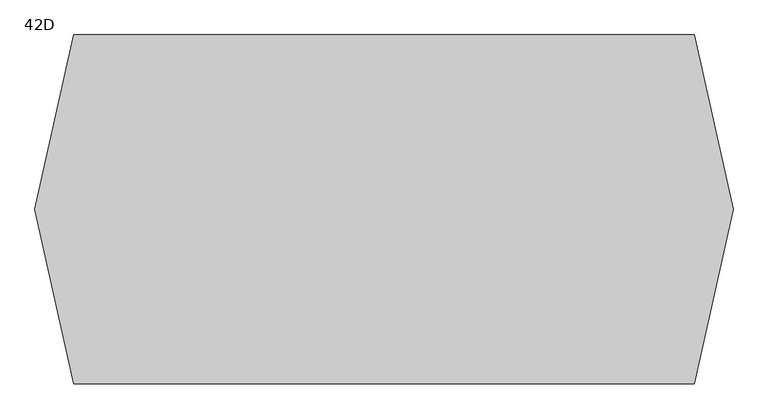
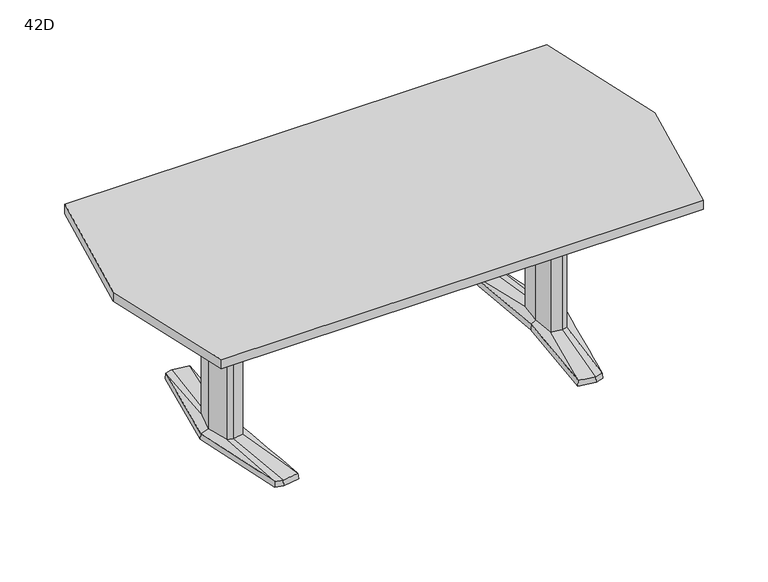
"""IFC4 building model written with IfcOpenShell, lengths in millimetres: furniture geometry, Coalesse_AM_Table_Conference_ETable2_Faceted_84in_AluminiumBase : 42D."""

from ifc_helpers import new_model, si_unit, frame, origin, place, context, project, spatial, polyline, outline, extrude, source, transform, mapped, element, save
from ifc_brep_helpers import plane_surface, spline_surface, advanced_brep


def furniture_42d_598d6e4a(model_context):
    return source(origin(), model_context, "Body", "SolidModel", [
        advanced_brep(
        [(614.8503471, -379.3768856, 25.4), (644.5756636, -371.5332654, 25.4), (668.2327243, -89.293702, 36.5125), (648.9795254, -94.605478, 36.5125), (606.0521001, -87.0529327, 36.5125), (551.7612538, -368.5071562, 25.4), (597.9364207, 0.0, 36.5125), (579.8389754, 0.3970149, 25.4), (606.0521001, 87.0529327, 36.5125), (551.7615002, 368.5172593, 25.4), (648.9795254, 94.605478, 36.5125), (614.8502233, 379.3769183, 25.4), (668.2327243, 89.293702, 36.5125), (644.7535458, 371.4863276, 25.4), (692.1595251, 0.0, 36.5125), (721.4851663, 0.0003516, 25.4), (578.2468742, 0.3968871, 3.175), (550.06875, 369.8367279, 3.175), (614.9213004, 381.0, 3.175), (646.1093245, 372.7704151, 3.175), (723.10625, 0.0, 3.175), (645.9309817, -372.8174744, 3.175), (614.9213004, -381.0, 3.175), (550.06875, -369.8264415, 3.175), (649.5979264, 107.6121478, 3.175), (594.3065451, 97.8843184, 3.175), (585.1810887, 0.0, 3.175), (594.3065451, -97.8843184, 3.175), (649.5979264, -107.6121478, 3.175), (678.6183473, -99.6056872, 3.175), (705.3083085, 0.0, 3.175), (678.6183473, 99.6056872, 3.175), (613.4286812, 346.9152841, 3.175), (557.7811371, 337.3364985, 3.175), (560.1889918, 324.8641942, 3.175), (612.8600644, 333.9306305, 3.175), (648.6725609, 324.4807859, 3.175), (647.5544526, 337.9105158, 3.175), (613.4286812, -346.9152841, 3.175), (647.5544526, -337.9105158, 3.175), (648.6725609, -324.4807859, 3.175), (612.8600644, -333.9306305, 3.175), (560.1889918, -324.8641942, 3.175), (557.7811371, -337.3364985, 3.175), (649.5979264, 107.6121478, 0.0), (678.6183473, 99.6056872, 0.0), (705.3083085, 0.0, 0.0), (678.6183473, -99.6056872, 0.0), (649.5979264, -107.6121478, 0.0), (594.3065451, -97.8843184, 0.0), (585.1810887, 0.0, 0.0), (594.3065451, 97.8843184, 0.0), (613.4286812, 346.9152841, 0.0), (647.5544526, 337.9105158, 0.0), (648.6725609, 324.4807859, 0.0), (612.8600644, 333.9306305, 0.0), (560.1889918, 324.8641942, 0.0), (557.7811371, 337.3364985, 0.0), (613.4286812, -346.9152841, 0.0), (557.7811371, -337.3364985, 0.0), (560.1889918, -324.8641942, 0.0), (612.8600644, -333.9306305, 0.0), (648.6725609, -324.4807859, 0.0), (647.5544526, -337.9105158, 0.0), (668.2327243, 89.293702, 698.5), (648.9795254, 94.605478, 698.5), (606.0521001, 87.0529327, 698.5), (597.9364207, 0.0, 698.5), (606.0521001, -87.0529327, 698.5), (648.9795254, -94.605478, 698.5), (668.2327243, -89.293702, 698.5), (692.1595251, 0.0, 698.5)],
        [
            (0, 1),
            (1, 2),
            (2, 3),
            (3, 0),
            (3, 4),
            (4, 5),
            (5, 0),
            (4, 6),
            (6, 7),
            (7, 5),
            (6, 8),
            (8, 9),
            (9, 7),
            (8, 10),
            (10, 11),
            (11, 9),
            (10, 12),
            (12, 13),
            (13, 11),
            (12, 14),
            (14, 15),
            (15, 13),
            (1, 15),
            (14, 2),
            (16, 17),
            (17, 18),
            (18, 19),
            (19, 20),
            (20, 21),
            (21, 22),
            (22, 23),
            (23, 16),
            (24, 25),
            (25, 26),
            (26, 27),
            (27, 28),
            (28, 29),
            (29, 30),
            (30, 31),
            (31, 24),
            (32, 33),
            (33, 34),
            (34, 35),
            (35, 36),
            (36, 37),
            (37, 32),
            (38, 39),
            (39, 40),
            (40, 41),
            (41, 42),
            (42, 43),
            (43, 38),
            (16, 7),
            (9, 17),
            (11, 18),
            (13, 19),
            (15, 20),
            (1, 21),
            (0, 22),
            (5, 23),
            (44, 45),
            (45, 46),
            (46, 47),
            (47, 48),
            (48, 49),
            (49, 50),
            (50, 51),
            (51, 44),
            (52, 53),
            (53, 54),
            (54, 55),
            (55, 56),
            (56, 57),
            (57, 52),
            (58, 59),
            (59, 60),
            (60, 61),
            (61, 62),
            (62, 63),
            (63, 58),
            (44, 24),
            (31, 45),
            (30, 46),
            (29, 47),
            (28, 48),
            (27, 49),
            (26, 50),
            (25, 51),
            (52, 32),
            (37, 53),
            (36, 54),
            (35, 55),
            (34, 56),
            (33, 57),
            (58, 38),
            (43, 59),
            (42, 60),
            (41, 61),
            (40, 62),
            (39, 63),
            (64, 65),
            (65, 66),
            (66, 67),
            (67, 68),
            (68, 69),
            (69, 70),
            (70, 71),
            (71, 64),
            (71, 14),
            (12, 64),
            (70, 2),
            (69, 3),
            (68, 4),
            (67, 6),
            (66, 8),
            (65, 10),
        ],
        [
            spline_surface(1, 1, [[(644.5756636, -371.5332654, 25.4), (614.8503471, -379.3768856, 25.4)], [(668.2327243, -89.293702, 36.5125), (648.9795254, -94.605478, 36.5125)]], [2, 2], [2, 2], [0.0, 1.0], [0.0, 1.0]),
            spline_surface(1, 1, [[(614.8503471, -379.3768856, 25.4), (551.7612538, -368.5071562, 25.4)], [(648.9795254, -94.605478, 36.5125), (606.0521001, -87.0529327, 36.5125)]], [2, 2], [2, 2], [0.0, 1.0], [0.0, 1.0]),
            spline_surface(1, 1, [[(551.7612538, -368.5071562, 25.4), (579.8389754, 0.3970149, 25.4)], [(606.0521001, -87.0529327, 36.5125), (597.9364207, 0.0, 36.5125)]], [2, 2], [2, 2], [0.0, 1.0], [0.0, 1.0]),
            spline_surface(1, 1, [[(579.8389754, 0.3970149, 25.4), (551.7615002, 368.5172593, 25.4)], [(597.9364207, 0.0, 36.5125), (606.0521001, 87.0529327, 36.5125)]], [2, 2], [2, 2], [0.0, 1.0], [0.0, 1.0]),
            spline_surface(1, 1, [[(551.7615002, 368.5172593, 25.4), (614.8502233, 379.3769183, 25.4)], [(606.0521001, 87.0529327, 36.5125), (648.9795254, 94.605478, 36.5125)]], [2, 2], [2, 2], [0.0, 1.0], [0.0, 1.0]),
            spline_surface(1, 1, [[(614.8502233, 379.3769183, 25.4), (644.7535458, 371.4863276, 25.4)], [(648.9795254, 94.605478, 36.5125), (668.2327243, 89.293702, 36.5125)]], [2, 2], [2, 2], [0.0, 1.0], [0.0, 1.0]),
            spline_surface(1, 1, [[(644.7535458, 371.4863276, 25.4), (721.4851663, 0.0003516, 25.4)], [(668.2327243, 89.293702, 36.5125), (692.1595251, 0.0, 36.5125)]], [2, 2], [2, 2], [0.0, 1.0], [0.0, 1.0]),
            spline_surface(1, 1, [[(721.4851663, 0.0003516, 25.4), (644.5756636, -371.5332654, 25.4)], [(692.1595251, 0.0, 36.5125), (668.2327243, -89.293702, 36.5125)]], [2, 2], [2, 2], [0.0, 1.0], [0.0, 1.0]),
            plane_surface(frame((615.4216914, 0.0450143, 3.175), z_axis=(0.0, 0.0, -1.0), x_axis=(-0.9669048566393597, -0.2551372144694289, 0.0))),
            plane_surface(frame((564.1578121, 185.1168075, 3.175), z_axis=(-0.9945699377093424, -0.07585840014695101, 0.0712470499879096), x_axis=(-0.07605167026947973, 0.9971038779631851, 0.0))),
            plane_surface(frame((582.4950252, 375.418364, 3.175), z_axis=(-0.1692071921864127, 0.9830019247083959, 0.07124704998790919), x_axis=(0.985506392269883, 0.16963829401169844, 0.0))),
            plane_surface(frame((630.5153124, 376.8852076, 3.175), z_axis=(0.2544888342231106, 0.9644476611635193, 0.07124704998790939), x_axis=(0.9669048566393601, -0.25513721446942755, 0.0))),
            plane_surface(frame((684.6077872, 186.3852076, 3.175), z_axis=(0.9768383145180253, 0.2017690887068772, 0.07124704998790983), x_axis=(0.20228315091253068, -0.9793270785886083, 0.0))),
            plane_surface(frame((684.5186158, -186.4087372, 3.175), z_axis=(0.9767507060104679, -0.20219276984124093, 0.07124704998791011), x_axis=(-0.2027079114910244, -0.9792392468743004, 0.0))),
            plane_surface(frame((630.426141, -376.9087372, 3.175), z_axis=(0.2544888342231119, -0.9644476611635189, 0.0712470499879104), x_axis=(-0.9669048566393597, -0.2551372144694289, 0.0))),
            plane_surface(frame((582.4950252, -375.4132207, 3.175), z_axis=(-0.16935861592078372, -0.982975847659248, 0.07124704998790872), x_axis=(-0.9854802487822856, 0.16979010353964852, 0.0))),
            plane_surface(frame((564.1578121, -184.7147772, 3.175), z_axis=(-0.9945820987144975, 0.07569878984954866, 0.07124704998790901), x_axis=(0.07589165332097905, 0.9971160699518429, 0.0))),
            plane_surface(frame((652.3571479, 106.8509046, 0.0), z_axis=(0.0, 0.0, -1.0000000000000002), x_axis=(-0.9639855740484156, 0.26595453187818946, 0.0))),
            plane_surface(frame((649.5979264, 107.6121478, 3.175), z_axis=(0.26595453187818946, 0.9639855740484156, 0.0), x_axis=(0.0, 0.0, -1.0))),
            plane_surface(frame((678.6183473, 99.6056872, 3.175), z_axis=(0.9659241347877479, 0.2588253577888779, 0.0), x_axis=(0.0, 0.0, -1.0))),
            plane_surface(frame((705.3083085, 0.0, 3.175), z_axis=(0.9659241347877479, -0.2588253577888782, 0.0), x_axis=(0.0, 0.0, -1.0))),
            plane_surface(frame((678.6183473, -99.6056872, 3.175), z_axis=(0.26595453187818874, -0.9639855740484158, 0.0), x_axis=(0.0, 0.0, -1.0))),
            plane_surface(frame((649.5979264, -107.6121478, 3.175), z_axis=(-0.17327617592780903, -0.9848732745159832, 0.0), x_axis=(0.0, 0.0, -1.0))),
            plane_surface(frame((594.3065451, -97.8843184, 3.175), z_axis=(-0.9956824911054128, -0.0928244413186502, 0.0), x_axis=(0.0, 0.0, -1.0))),
            plane_surface(frame((585.1810887, 0.0, 3.175), z_axis=(-0.9956824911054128, 0.09282444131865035, 0.0), x_axis=(0.0, 0.0, -1.0))),
            plane_surface(frame((594.3065451, 97.8843184, 3.175), z_axis=(-0.17327617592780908, 0.984873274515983, 0.0), x_axis=(0.0, 0.0, -1.0))),
            plane_surface(frame((613.4286812, 346.9152841, 3.175), z_axis=(0.25513721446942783, 0.9669048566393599, 0.0), x_axis=(0.0, 0.0, -1.0))),
            plane_surface(frame((647.5544526, 337.9105158, 3.175), z_axis=(0.9965521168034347, 0.0829691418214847, 0.0), x_axis=(0.0, 0.0, -1.0))),
            plane_surface(frame((648.6725609, 324.4807859, 3.175), z_axis=(-0.25513721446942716, -0.9669048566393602, 0.0), x_axis=(0.0, 0.0, -1.0))),
            plane_surface(frame((612.8600644, 333.9306305, 3.175), z_axis=(0.16963829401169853, -0.985506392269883, 0.0), x_axis=(0.0, 0.0, -1.0))),
            plane_surface(frame((560.1889918, 324.8641942, 3.175), z_axis=(-0.9818699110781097, -0.18955600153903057, 0.0), x_axis=(0.0, 0.0, -1.0))),
            plane_surface(frame((557.7811371, 337.3364985, 3.175), z_axis=(-0.16963829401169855, 0.9855063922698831, 0.0), x_axis=(0.0, 0.0, -1.0))),
            plane_surface(frame((613.4286812, -346.9152841, 3.175), z_axis=(-0.1696382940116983, -0.9855063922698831, 0.0), x_axis=(0.0, 0.0, -1.0))),
            plane_surface(frame((557.7811371, -337.3364985, 3.175), z_axis=(-0.9818699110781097, 0.18955600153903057, 0.0), x_axis=(0.0, 0.0, -1.0))),
            plane_surface(frame((560.1889918, -324.8641942, 3.175), z_axis=(0.16963829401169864, 0.985506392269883, 0.0), x_axis=(0.0, 0.0, -1.0))),
            plane_surface(frame((612.8600644, -333.9306305, 3.175), z_axis=(-0.2551372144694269, 0.9669048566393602, 0.0), x_axis=(0.0, 0.0, -1.0))),
            plane_surface(frame((648.6725609, -324.4807859, 3.175), z_axis=(0.9965521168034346, -0.0829691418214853, 0.0), x_axis=(0.0, 0.0, -1.0))),
            plane_surface(frame((647.5544526, -337.9105158, 3.175), z_axis=(0.2551372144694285, -0.9669048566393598, 0.0), x_axis=(0.0, 0.0, -1.0))),
            plane_surface(frame((692.1595251, 0.0, 698.5), z_axis=(0.0, 0.0, 1.0), x_axis=(0.25882535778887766, -0.965924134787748, 0.0))),
            plane_surface(frame((668.2327243, 89.293702, 698.5), z_axis=(0.965924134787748, 0.25882535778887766, 0.0), x_axis=(0.0, 0.0, -1.0))),
            plane_surface(frame((692.1595251, 0.0, 698.5), z_axis=(0.965924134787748, -0.2588253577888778, 0.0), x_axis=(0.0, 0.0, -1.0))),
            plane_surface(frame((668.2327243, -89.293702, 698.5), z_axis=(0.2659545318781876, -0.963985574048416, 0.0), x_axis=(0.0, 0.0, -1.0))),
            plane_surface(frame((648.9795254, -94.605478, 698.5), z_axis=(-0.1732761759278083, -0.9848732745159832, 0.0), x_axis=(0.0, 0.0, -1.0))),
            plane_surface(frame((606.0521001, -87.0529327, 698.5), z_axis=(-0.9956824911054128, -0.0928244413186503, 0.0), x_axis=(0.0, 0.0, -1.0))),
            plane_surface(frame((597.9364207, 0.0, 698.5), z_axis=(-0.9956824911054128, 0.09282444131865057, 0.0), x_axis=(0.0, 0.0, -1.0))),
            plane_surface(frame((606.0521001, 87.0529327, 698.5), z_axis=(-0.17327617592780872, 0.9848732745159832, 0.0), x_axis=(0.0, 0.0, -1.0))),
            plane_surface(frame((648.9795254, 94.605478, 698.5), z_axis=(0.26595453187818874, 0.9639855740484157, 0.0), x_axis=(0.0, 0.0, -1.0))),
        ],
        [
            (0, [[1, 2, 3, 4]]),
            (1, [[5, 6, 7, -4]]),
            (2, [[8, 9, 10, -6]]),
            (3, [[11, 12, 13, -9]]),
            (4, [[14, 15, 16, -12]]),
            (5, [[17, 18, 19, -15]]),
            (6, [[20, 21, 22, -18]]),
            (7, [[23, -21, 24, -2]]),
            (8, [[25, 26, 27, 28, 29, 30, 31, 32], [33, 34, 35, 36, 37, 38, 39, 40], [41, 42, 43, 44, 45, 46], [47, 48, 49, 50, 51, 52]]),
            (9, [[53, -13, 54, -25]]),
            (10, [[-54, -16, 55, -26]]),
            (11, [[-55, -19, 56, -27]]),
            (12, [[-56, -22, 57, -28]]),
            (13, [[-57, -23, 58, -29]]),
            (14, [[-58, -1, 59, -30]]),
            (15, [[-59, -7, 60, -31]]),
            (16, [[-60, -10, -53, -32]]),
            (17, [[61, 62, 63, 64, 65, 66, 67, 68]]),
            (17, [[69, 70, 71, 72, 73, 74]]),
            (17, [[75, 76, 77, 78, 79, 80]]),
            (18, [[81, -40, 82, -61]]),
            (19, [[-82, -39, 83, -62]]),
            (20, [[-83, -38, 84, -63]]),
            (21, [[-84, -37, 85, -64]]),
            (22, [[-85, -36, 86, -65]]),
            (23, [[-86, -35, 87, -66]]),
            (24, [[-87, -34, 88, -67]]),
            (25, [[-88, -33, -81, -68]]),
            (26, [[89, -46, 90, -69]]),
            (27, [[-90, -45, 91, -70]]),
            (28, [[-91, -44, 92, -71]]),
            (29, [[-92, -43, 93, -72]]),
            (30, [[-93, -42, 94, -73]]),
            (31, [[-94, -41, -89, -74]]),
            (32, [[95, -52, 96, -75]]),
            (33, [[-96, -51, 97, -76]]),
            (34, [[-97, -50, 98, -77]]),
            (35, [[-98, -49, 99, -78]]),
            (36, [[-99, -48, 100, -79]]),
            (37, [[-100, -47, -95, -80]]),
            (38, [[101, 102, 103, 104, 105, 106, 107, 108]]),
            (39, [[109, -20, 110, -108]]),
            (40, [[111, -24, -109, -107]]),
            (41, [[112, -3, -111, -106]]),
            (42, [[113, -5, -112, -105]]),
            (43, [[114, -8, -113, -104]]),
            (44, [[115, -11, -114, -103]]),
            (45, [[116, -14, -115, -102]]),
            (46, [[-110, -17, -116, -101]]),
        ],
    ),
        advanced_brep(
        [(-614.8503471, -379.3768856, 25.4), (-648.9795254, -94.605478, 36.5125), (-668.2327243, -89.293702, 36.5125), (-644.5756636, -371.5332654, 25.4), (-551.7612538, -368.5071562, 25.4), (-606.0521001, -87.0529327, 36.5125), (-579.8389754, 0.3970149, 25.4), (-597.9364207, 0.0, 36.5125), (-551.7615002, 368.5172593, 25.4), (-606.0521001, 87.0529327, 36.5125), (-614.8502233, 379.3769183, 25.4), (-648.9795254, 94.605478, 36.5125), (-644.7535458, 371.4863276, 25.4), (-668.2327243, 89.293702, 36.5125), (-721.4851663, 0.0003516, 25.4), (-692.1595251, 0.0, 36.5125), (-578.2468742, 0.3968871, 3.175), (-550.06875, -369.8264415, 3.175), (-614.9213004, -381.0, 3.175), (-645.9309817, -372.8174744, 3.175), (-723.10625, 0.0, 3.175), (-646.1093245, 372.7704151, 3.175), (-614.9213004, 381.0, 3.175), (-550.06875, 369.8367279, 3.175), (-649.5979264, 107.6121478, 3.175), (-678.6183473, 99.6056872, 3.175), (-705.3083085, 0.0, 3.175), (-678.6183473, -99.6056872, 3.175), (-649.5979264, -107.6121478, 3.175), (-594.3065451, -97.8843184, 3.175), (-585.1810887, 0.0, 3.175), (-594.3065451, 97.8843184, 3.175), (-613.4286812, 346.9152841, 3.175), (-647.5544526, 337.9105158, 3.175), (-648.6725609, 324.4807859, 3.175), (-612.8600644, 333.9306305, 3.175), (-560.1889918, 324.8641942, 3.175), (-557.7811371, 337.3364985, 3.175), (-613.4286812, -346.9152841, 3.175), (-557.7811371, -337.3364985, 3.175), (-560.1889918, -324.8641942, 3.175), (-612.8600644, -333.9306305, 3.175), (-648.6725609, -324.4807859, 3.175), (-647.5544526, -337.9105158, 3.175), (-649.5979264, 107.6121478, 0.0), (-594.3065451, 97.8843184, 0.0), (-585.1810887, 0.0, 0.0), (-594.3065451, -97.8843184, 0.0), (-649.5979264, -107.6121478, 0.0), (-678.6183473, -99.6056872, 0.0), (-705.3083085, 0.0, 0.0), (-678.6183473, 99.6056872, 0.0), (-613.4286812, 346.9152841, 0.0), (-557.7811371, 337.3364985, 0.0), (-560.1889918, 324.8641942, 0.0), (-612.8600644, 333.9306305, 0.0), (-648.6725609, 324.4807859, 0.0), (-647.5544526, 337.9105158, 0.0), (-613.4286812, -346.9152841, 0.0), (-647.5544526, -337.9105158, 0.0), (-648.6725609, -324.4807859, 0.0), (-612.8600644, -333.9306305, 0.0), (-560.1889918, -324.8641942, 0.0), (-557.7811371, -337.3364985, 0.0), (-668.2327243, 89.293702, 698.5), (-692.1595251, 0.0, 698.5), (-668.2327243, -89.293702, 698.5), (-648.9795254, -94.605478, 698.5), (-606.0521001, -87.0529327, 698.5), (-597.9364207, 0.0, 698.5), (-606.0521001, 87.0529327, 698.5), (-648.9795254, 94.605478, 698.5)],
        [
            (0, 1),
            (1, 2),
            (2, 3),
            (3, 0),
            (0, 4),
            (4, 5),
            (5, 1),
            (4, 6),
            (6, 7),
            (7, 5),
            (6, 8),
            (8, 9),
            (9, 7),
            (8, 10),
            (10, 11),
            (11, 9),
            (10, 12),
            (12, 13),
            (13, 11),
            (12, 14),
            (14, 15),
            (15, 13),
            (2, 15),
            (14, 3),
            (16, 17),
            (17, 18),
            (18, 19),
            (19, 20),
            (20, 21),
            (21, 22),
            (22, 23),
            (23, 16),
            (24, 25),
            (25, 26),
            (26, 27),
            (27, 28),
            (28, 29),
            (29, 30),
            (30, 31),
            (31, 24),
            (32, 33),
            (33, 34),
            (34, 35),
            (35, 36),
            (36, 37),
            (37, 32),
            (38, 39),
            (39, 40),
            (40, 41),
            (41, 42),
            (42, 43),
            (43, 38),
            (23, 8),
            (6, 16),
            (22, 10),
            (21, 12),
            (20, 14),
            (19, 3),
            (18, 0),
            (17, 4),
            (44, 45),
            (45, 46),
            (46, 47),
            (47, 48),
            (48, 49),
            (49, 50),
            (50, 51),
            (51, 44),
            (52, 53),
            (53, 54),
            (54, 55),
            (55, 56),
            (56, 57),
            (57, 52),
            (58, 59),
            (59, 60),
            (60, 61),
            (61, 62),
            (62, 63),
            (63, 58),
            (51, 25),
            (24, 44),
            (50, 26),
            (49, 27),
            (48, 28),
            (47, 29),
            (46, 30),
            (45, 31),
            (57, 33),
            (32, 52),
            (56, 34),
            (55, 35),
            (54, 36),
            (53, 37),
            (63, 39),
            (38, 58),
            (62, 40),
            (61, 41),
            (60, 42),
            (59, 43),
            (64, 65),
            (65, 66),
            (66, 67),
            (67, 68),
            (68, 69),
            (69, 70),
            (70, 71),
            (71, 64),
            (64, 13),
            (15, 65),
            (2, 66),
            (1, 67),
            (5, 68),
            (7, 69),
            (9, 70),
            (11, 71),
        ],
        [
            spline_surface(1, 1, [[(-644.5756636, -371.5332654, 25.4), (-668.2327243, -89.293702, 36.5125)], [(-614.8503471, -379.3768856, 25.4), (-648.9795254, -94.605478, 36.5125)]], [2, 2], [2, 2], [0.0, 1.0], [0.0, 1.0]),
            spline_surface(1, 1, [[(-614.8503471, -379.3768856, 25.4), (-648.9795254, -94.605478, 36.5125)], [(-551.7612538, -368.5071562, 25.4), (-606.0521001, -87.0529327, 36.5125)]], [2, 2], [2, 2], [0.0, 1.0], [0.0, 1.0]),
            spline_surface(1, 1, [[(-551.7612538, -368.5071562, 25.4), (-606.0521001, -87.0529327, 36.5125)], [(-579.8389754, 0.3970149, 25.4), (-597.9364207, 0.0, 36.5125)]], [2, 2], [2, 2], [0.0, 1.0], [0.0, 1.0]),
            spline_surface(1, 1, [[(-579.8389754, 0.3970149, 25.4), (-597.9364207, 0.0, 36.5125)], [(-551.7615002, 368.5172593, 25.4), (-606.0521001, 87.0529327, 36.5125)]], [2, 2], [2, 2], [0.0, 1.0], [0.0, 1.0]),
            spline_surface(1, 1, [[(-551.7615002, 368.5172593, 25.4), (-606.0521001, 87.0529327, 36.5125)], [(-614.8502233, 379.3769183, 25.4), (-648.9795254, 94.605478, 36.5125)]], [2, 2], [2, 2], [0.0, 1.0], [0.0, 1.0]),
            spline_surface(1, 1, [[(-614.8502233, 379.3769183, 25.4), (-648.9795254, 94.605478, 36.5125)], [(-644.7535458, 371.4863276, 25.4), (-668.2327243, 89.293702, 36.5125)]], [2, 2], [2, 2], [0.0, 1.0], [0.0, 1.0]),
            spline_surface(1, 1, [[(-644.7535458, 371.4863276, 25.4), (-668.2327243, 89.293702, 36.5125)], [(-721.4851663, 0.0003516, 25.4), (-692.1595251, 0.0, 36.5125)]], [2, 2], [2, 2], [0.0, 1.0], [0.0, 1.0]),
            spline_surface(1, 1, [[(-721.4851663, 0.0003516, 25.4), (-692.1595251, 0.0, 36.5125)], [(-644.5756636, -371.5332654, 25.4), (-668.2327243, -89.293702, 36.5125)]], [2, 2], [2, 2], [0.0, 1.0], [0.0, 1.0]),
            plane_surface(frame((-615.4216914, 0.0450143, 3.175), z_axis=(0.0, 0.0, -1.0), x_axis=(0.9669048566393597, -0.2551372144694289, 0.0))),
            plane_surface(frame((-564.1578121, 185.1168075, 3.175), z_axis=(0.9945699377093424, -0.07585840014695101, 0.0712470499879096), x_axis=(0.07605167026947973, 0.9971038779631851, 0.0))),
            plane_surface(frame((-582.4950252, 375.418364, 3.175), z_axis=(0.1692071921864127, 0.9830019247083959, 0.07124704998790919), x_axis=(-0.985506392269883, 0.16963829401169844, 0.0))),
            plane_surface(frame((-630.5153124, 376.8852076, 3.175), z_axis=(-0.2544888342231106, 0.9644476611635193, 0.07124704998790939), x_axis=(-0.9669048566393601, -0.25513721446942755, 0.0))),
            plane_surface(frame((-684.6077872, 186.3852076, 3.175), z_axis=(-0.9768383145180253, 0.2017690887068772, 0.07124704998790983), x_axis=(-0.20228315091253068, -0.9793270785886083, 0.0))),
            plane_surface(frame((-684.5186158, -186.4087372, 3.175), z_axis=(-0.9767507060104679, -0.20219276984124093, 0.07124704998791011), x_axis=(0.2027079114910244, -0.9792392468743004, 0.0))),
            plane_surface(frame((-630.426141, -376.9087372, 3.175), z_axis=(-0.2544888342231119, -0.9644476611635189, 0.0712470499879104), x_axis=(0.9669048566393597, -0.2551372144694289, 0.0))),
            plane_surface(frame((-582.4950252, -375.4132207, 3.175), z_axis=(0.16935861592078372, -0.982975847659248, 0.07124704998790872), x_axis=(0.9854802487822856, 0.16979010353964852, 0.0))),
            plane_surface(frame((-564.1578121, -184.7147772, 3.175), z_axis=(0.9945820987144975, 0.07569878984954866, 0.07124704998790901), x_axis=(-0.07589165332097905, 0.9971160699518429, 0.0))),
            plane_surface(frame((-652.3571479, 106.8509046, 0.0), z_axis=(0.0, 0.0, -1.0000000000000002), x_axis=(0.9639855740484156, 0.26595453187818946, 0.0))),
            plane_surface(frame((-649.5979264, 107.6121478, 3.175), z_axis=(-0.26595453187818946, 0.9639855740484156, 0.0), x_axis=(0.0, 0.0, -1.0))),
            plane_surface(frame((-678.6183473, 99.6056872, 3.175), z_axis=(-0.9659241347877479, 0.2588253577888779, 0.0), x_axis=(0.0, 0.0, -1.0))),
            plane_surface(frame((-705.3083085, 0.0, 3.175), z_axis=(-0.9659241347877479, -0.2588253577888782, 0.0), x_axis=(0.0, 0.0, -1.0))),
            plane_surface(frame((-678.6183473, -99.6056872, 3.175), z_axis=(-0.26595453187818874, -0.9639855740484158, 0.0), x_axis=(0.0, 0.0, -1.0))),
            plane_surface(frame((-649.5979264, -107.6121478, 3.175), z_axis=(0.17327617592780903, -0.9848732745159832, 0.0), x_axis=(0.0, 0.0, -1.0))),
            plane_surface(frame((-594.3065451, -97.8843184, 3.175), z_axis=(0.9956824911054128, -0.0928244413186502, 0.0), x_axis=(0.0, 0.0, -1.0))),
            plane_surface(frame((-585.1810887, 0.0, 3.175), z_axis=(0.9956824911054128, 0.09282444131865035, 0.0), x_axis=(0.0, 0.0, -1.0))),
            plane_surface(frame((-594.3065451, 97.8843184, 3.175), z_axis=(0.17327617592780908, 0.984873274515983, 0.0), x_axis=(0.0, 0.0, -1.0))),
            plane_surface(frame((-613.4286812, 346.9152841, 3.175), z_axis=(-0.25513721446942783, 0.9669048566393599, 0.0), x_axis=(0.0, 0.0, -1.0))),
            plane_surface(frame((-647.5544526, 337.9105158, 3.175), z_axis=(-0.9965521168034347, 0.0829691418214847, 0.0), x_axis=(0.0, 0.0, -1.0))),
            plane_surface(frame((-648.6725609, 324.4807859, 3.175), z_axis=(0.25513721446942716, -0.9669048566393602, 0.0), x_axis=(0.0, 0.0, -1.0))),
            plane_surface(frame((-612.8600644, 333.9306305, 3.175), z_axis=(-0.16963829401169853, -0.985506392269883, 0.0), x_axis=(0.0, 0.0, -1.0))),
            plane_surface(frame((-560.1889918, 324.8641942, 3.175), z_axis=(0.9818699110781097, -0.18955600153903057, 0.0), x_axis=(0.0, 0.0, -1.0))),
            plane_surface(frame((-557.7811371, 337.3364985, 3.175), z_axis=(0.16963829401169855, 0.9855063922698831, 0.0), x_axis=(0.0, 0.0, -1.0))),
            plane_surface(frame((-613.4286812, -346.9152841, 3.175), z_axis=(0.1696382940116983, -0.9855063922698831, 0.0), x_axis=(0.0, 0.0, -1.0))),
            plane_surface(frame((-557.7811371, -337.3364985, 3.175), z_axis=(0.9818699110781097, 0.18955600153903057, 0.0), x_axis=(0.0, 0.0, -1.0))),
            plane_surface(frame((-560.1889918, -324.8641942, 3.175), z_axis=(-0.16963829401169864, 0.985506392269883, 0.0), x_axis=(0.0, 0.0, -1.0))),
            plane_surface(frame((-612.8600644, -333.9306305, 3.175), z_axis=(0.2551372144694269, 0.9669048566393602, 0.0), x_axis=(0.0, 0.0, -1.0))),
            plane_surface(frame((-648.6725609, -324.4807859, 3.175), z_axis=(-0.9965521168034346, -0.0829691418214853, 0.0), x_axis=(0.0, 0.0, -1.0))),
            plane_surface(frame((-647.5544526, -337.9105158, 3.175), z_axis=(-0.2551372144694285, -0.9669048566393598, 0.0), x_axis=(0.0, 0.0, -1.0))),
            plane_surface(frame((-692.1595251, 0.0, 698.5), z_axis=(0.0, 0.0, 1.0), x_axis=(-0.25882535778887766, -0.965924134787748, 0.0))),
            plane_surface(frame((-668.2327243, 89.293702, 698.5), z_axis=(-0.965924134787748, 0.25882535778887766, 0.0), x_axis=(0.0, 0.0, -1.0))),
            plane_surface(frame((-692.1595251, 0.0, 698.5), z_axis=(-0.965924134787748, -0.2588253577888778, 0.0), x_axis=(0.0, 0.0, -1.0))),
            plane_surface(frame((-668.2327243, -89.293702, 698.5), z_axis=(-0.2659545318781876, -0.963985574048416, 0.0), x_axis=(0.0, 0.0, -1.0))),
            plane_surface(frame((-648.9795254, -94.605478, 698.5), z_axis=(0.1732761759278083, -0.9848732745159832, 0.0), x_axis=(0.0, 0.0, -1.0))),
            plane_surface(frame((-606.0521001, -87.0529327, 698.5), z_axis=(0.9956824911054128, -0.0928244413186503, 0.0), x_axis=(0.0, 0.0, -1.0))),
            plane_surface(frame((-597.9364207, 0.0, 698.5), z_axis=(0.9956824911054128, 0.09282444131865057, 0.0), x_axis=(0.0, 0.0, -1.0))),
            plane_surface(frame((-606.0521001, 87.0529327, 698.5), z_axis=(0.17327617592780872, 0.9848732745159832, 0.0), x_axis=(0.0, 0.0, -1.0))),
            plane_surface(frame((-648.9795254, 94.605478, 698.5), z_axis=(-0.26595453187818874, 0.9639855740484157, 0.0), x_axis=(0.0, 0.0, -1.0))),
        ],
        [
            (0, [[1, 2, 3, 4]]),
            (1, [[-1, 5, 6, 7]]),
            (2, [[-6, 8, 9, 10]]),
            (3, [[-9, 11, 12, 13]]),
            (4, [[-12, 14, 15, 16]]),
            (5, [[-15, 17, 18, 19]]),
            (6, [[-18, 20, 21, 22]]),
            (7, [[-3, 23, -21, 24]]),
            (8, [[25, 26, 27, 28, 29, 30, 31, 32], [33, 34, 35, 36, 37, 38, 39, 40], [41, 42, 43, 44, 45, 46], [47, 48, 49, 50, 51, 52]]),
            (9, [[-32, 53, -11, 54]]),
            (10, [[-31, 55, -14, -53]]),
            (11, [[-30, 56, -17, -55]]),
            (12, [[-29, 57, -20, -56]]),
            (13, [[-28, 58, -24, -57]]),
            (14, [[-27, 59, -4, -58]]),
            (15, [[-26, 60, -5, -59]]),
            (16, [[-25, -54, -8, -60]]),
            (17, [[61, 62, 63, 64, 65, 66, 67, 68]]),
            (17, [[69, 70, 71, 72, 73, 74]]),
            (17, [[75, 76, 77, 78, 79, 80]]),
            (18, [[-68, 81, -33, 82]]),
            (19, [[-67, 83, -34, -81]]),
            (20, [[-66, 84, -35, -83]]),
            (21, [[-65, 85, -36, -84]]),
            (22, [[-64, 86, -37, -85]]),
            (23, [[-63, 87, -38, -86]]),
            (24, [[-62, 88, -39, -87]]),
            (25, [[-61, -82, -40, -88]]),
            (26, [[-74, 89, -41, 90]]),
            (27, [[-73, 91, -42, -89]]),
            (28, [[-72, 92, -43, -91]]),
            (29, [[-71, 93, -44, -92]]),
            (30, [[-70, 94, -45, -93]]),
            (31, [[-69, -90, -46, -94]]),
            (32, [[-80, 95, -47, 96]]),
            (33, [[-79, 97, -48, -95]]),
            (34, [[-78, 98, -49, -97]]),
            (35, [[-77, 99, -50, -98]]),
            (36, [[-76, 100, -51, -99]]),
            (37, [[-75, -96, -52, -100]]),
            (38, [[101, 102, 103, 104, 105, 106, 107, 108]]),
            (39, [[-101, 109, -22, 110]]),
            (40, [[-102, -110, -23, 111]]),
            (41, [[-103, -111, -2, 112]]),
            (42, [[-104, -112, -7, 113]]),
            (43, [[-105, -113, -10, 114]]),
            (44, [[-106, -114, -13, 115]]),
            (45, [[-107, -115, -16, 116]]),
            (46, [[-108, -116, -19, -109]]),
        ],
    ),
        extrude(outline(polyline([(-1066.8, 0.0), (-948.547407, 533.4), (948.547407, 533.4), (1066.8, 0.0), (948.547407, -533.4), (-948.547407, -533.4), (-1066.8, 0.0)])), frame((0.0, 0.0, 698.5), z_axis=(0.0, 0.0, 1.0), x_axis=(1.0, 0.0, 0.0)), (0.0, 0.0, 1.0), 38.1),
        extrude(outline(polyline([(96.8375, 698.5), (103.1875, 698.5), (103.1875, 476.25), (-103.1875, 476.25), (-103.1875, 698.5), (-96.8375, 698.5), (-96.8375, 482.6), (96.8375, 482.6), (96.8375, 698.5)])), frame((-597.9364207, 0.0, 0.0), z_axis=(1.0, 0.0, 0.0), x_axis=(0.0, 1.0, 0.0)), (0.0, 0.0, 1.0), 1195.8728415),
    ])


if __name__ == "__main__":
    model = new_model("IFC4")
    model_context = context("Model", 3, world=origin())
    ifc_project = project(units=[si_unit("LENGTHUNIT", "METRE", prefix="MILLI")], contexts=[model_context])
    site = spatial("IfcSite", under=ifc_project)
    building = spatial("IfcBuilding", under=site)
    placement = place(None, origin())
    furniture_42d_shape = furniture_42d_598d6e4a(model_context)
    element("IfcFurniture", 1, ObjectType="Coalesse_AM_Table_Conference_ETable2_Faceted_84in_AluminiumBase : 42D", at=placement, inside=building, context=model_context, shape_type="MappedRepresentation", body=[
        mapped(furniture_42d_shape, transform((0.0, 0.0, 0.0), x_axis=(1.0, 0.0, 0.0), y_axis=(0.0, 1.0, 0.0), z_axis=(0.0, 0.0, 1.0))),
    ])
    save(model, "model.ifc")
